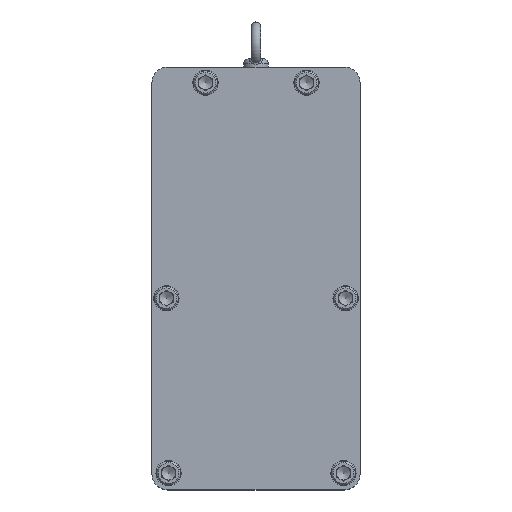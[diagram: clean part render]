
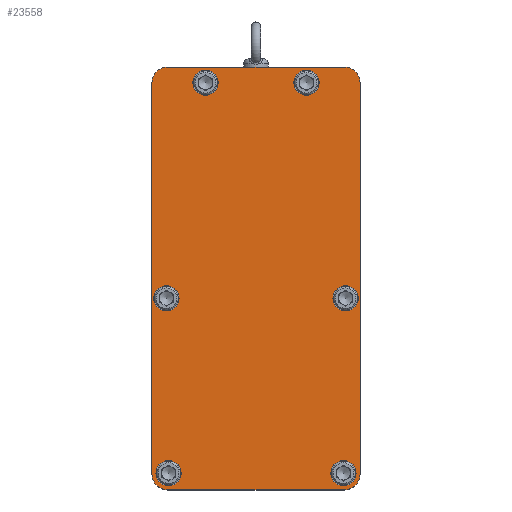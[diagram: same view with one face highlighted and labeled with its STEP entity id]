
A CAD part, top view. The second image highlights one B-rep face of the part: STEP entity #23558.
In plain terms, the highlighted planar face has unit normal (0, 0, 1).
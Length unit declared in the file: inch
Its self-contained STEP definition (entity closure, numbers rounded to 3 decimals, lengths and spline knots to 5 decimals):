
#200 = DIRECTION ( 'NONE',  ( 0., 0., 1. ) ) ;
#562 = CARTESIAN_POINT ( 'NONE',  ( -3.55, 3.46482, 12.0218 ) ) ;
#747 = CIRCLE ( 'NONE', #16104, 0.5 ) ;
#864 = DIRECTION ( 'NONE',  ( 0., -1., 0. ) ) ;
#934 = LINE ( 'NONE', #20527, #6614 ) ;
#1022 = CIRCLE ( 'NONE', #16890, 0.625 ) ;
#1526 = CIRCLE ( 'NONE', #22189, 0.625 ) ;
#1750 = CARTESIAN_POINT ( 'NONE',  ( -3.5, 12., 12.0218 ) ) ;
#1758 = EDGE_CURVE ( 'NONE', #25386, #25386, #19009, .T. ) ;
#1796 = AXIS2_PLACEMENT_3D ( 'NONE', #10828, #22110, #30065 ) ;
#1975 = VERTEX_POINT ( 'NONE', #13221 ) ;
#2240 = VERTEX_POINT ( 'NONE', #2275 ) ;
#2275 = CARTESIAN_POINT ( 'NONE',  ( -4.125, -3.5, 12.0218 ) ) ;
#2664 = CARTESIAN_POINT ( 'NONE',  ( 3.96482, -3.46482, 12.0218 ) ) ;
#2688 = DIRECTION ( 'NONE',  ( 1., 0., 0. ) ) ;
#3110 = CARTESIAN_POINT ( 'NONE',  ( 4.125, 12.625, 12.0218 ) ) ;
#3134 = ORIENTED_EDGE ( 'NONE', *, *, #6333, .F. ) ;
#3135 = AXIS2_PLACEMENT_3D ( 'NONE', #33905, #5983, #13933 ) ;
#3374 = CARTESIAN_POINT ( 'NONE',  ( 2.5, 12., 12.0218 ) ) ;
#3387 = DIRECTION ( 'NONE',  ( 0., 0., -1. ) ) ;
#3435 = DIRECTION ( 'NONE',  ( 1., 0., 0. ) ) ;
#3448 = ORIENTED_EDGE ( 'NONE', *, *, #28261, .F. ) ;
#3514 = DIRECTION ( 'NONE',  ( 1., 0., 0. ) ) ;
#3584 = DIRECTION ( 'NONE',  ( 0., 0., 1. ) ) ;
#3635 = LINE ( 'NONE', #20634, #5531 ) ;
#4850 = CARTESIAN_POINT ( 'NONE',  ( 3.5, 12.625, 12.0218 ) ) ;
#5077 = DIRECTION ( 'NONE',  ( 0., 0., 1. ) ) ;
#5180 = EDGE_CURVE ( 'NONE', #23943, #20504, #1526, .T. ) ;
#5344 = EDGE_LOOP ( 'NONE', ( #23296 ) ) ;
#5531 = VECTOR ( 'NONE', #13858, 39.37008 ) ;
#5752 = EDGE_CURVE ( 'NONE', #18131, #18131, #13948, .T. ) ;
#5983 = DIRECTION ( 'NONE',  ( 0., 0., 1. ) ) ;
#6258 = VERTEX_POINT ( 'NONE', #11200 ) ;
#6333 = EDGE_CURVE ( 'NONE', #28695, #28695, #31718, .T. ) ;
#6542 = EDGE_CURVE ( 'NONE', #30254, #11014, #1022, .T. ) ;
#6614 = VECTOR ( 'NONE', #9062, 39.37008 ) ;
#6703 = DIRECTION ( 'NONE',  ( -1., 0., 0. ) ) ;
#6976 = CARTESIAN_POINT ( 'NONE',  ( 3.5, 12., 12.0218 ) ) ;
#7756 = CARTESIAN_POINT ( 'NONE',  ( -3.5, 12.625, 12.0218 ) ) ;
#8063 = CARTESIAN_POINT ( 'NONE',  ( -3.05, 3.46482, 12.0218 ) ) ;
#8108 = AXIS2_PLACEMENT_3D ( 'NONE', #562, #200, #3514 ) ;
#8114 = ORIENTED_EDGE ( 'NONE', *, *, #1758, .F. ) ;
#8244 = VERTEX_POINT ( 'NONE', #21736 ) ;
#8789 = DIRECTION ( 'NONE',  ( 0., 0., 1. ) ) ;
#8865 = CARTESIAN_POINT ( 'NONE',  ( -3.5, -4.125, 12.0218 ) ) ;
#9062 = DIRECTION ( 'NONE',  ( 0., 1., 0. ) ) ;
#10828 = CARTESIAN_POINT ( 'NONE',  ( -3.5, -3.5, 12.0218 ) ) ;
#10871 = CIRCLE ( 'NONE', #19748, 0.625 ) ;
#11014 = VERTEX_POINT ( 'NONE', #25174 ) ;
#11084 = EDGE_LOOP ( 'NONE', ( #36185, #27517, #19720, #26619, #19499, #26011, #24263, #16277 ) ) ;
#11200 = CARTESIAN_POINT ( 'NONE',  ( 4.125, -3.5, 12.0218 ) ) ;
#11504 = FACE_BOUND ( 'NONE', #22911, .T. ) ;
#11602 = ORIENTED_EDGE ( 'NONE', *, *, #30815, .F. ) ;
#13131 = DIRECTION ( 'NONE',  ( -1., 0., 0. ) ) ;
#13221 = CARTESIAN_POINT ( 'NONE',  ( -1.5, 12., 12.0218 ) ) ;
#13266 = EDGE_LOOP ( 'NONE', ( #8114 ) ) ;
#13858 = DIRECTION ( 'NONE',  ( 1., 0., 0. ) ) ;
#13933 = DIRECTION ( 'NONE',  ( 1., 0., 0. ) ) ;
#13948 = CIRCLE ( 'NONE', #30513, 0.5 ) ;
#14642 = DIRECTION ( 'NONE',  ( -1., 0., 0. ) ) ;
#14932 = DIRECTION ( 'NONE',  ( -1., 0., 0. ) ) ;
#16104 = AXIS2_PLACEMENT_3D ( 'NONE', #33365, #5077, #2688 ) ;
#16277 = ORIENTED_EDGE ( 'NONE', *, *, #6542, .T. ) ;
#16890 = AXIS2_PLACEMENT_3D ( 'NONE', #1750, #18931, #27442 ) ;
#17422 = FACE_BOUND ( 'NONE', #17902, .T. ) ;
#17508 = LINE ( 'NONE', #3110, #34812 ) ;
#17588 = VERTEX_POINT ( 'NONE', #28218 ) ;
#17902 = EDGE_LOOP ( 'NONE', ( #32814 ) ) ;
#18062 = DIRECTION ( 'NONE',  ( 1., 0., 0. ) ) ;
#18131 = VERTEX_POINT ( 'NONE', #23854 ) ;
#18931 = DIRECTION ( 'NONE',  ( 0., 0., 1. ) ) ;
#19009 = CIRCLE ( 'NONE', #23133, 0.5 ) ;
#19073 = CIRCLE ( 'NONE', #3135, 0.5 ) ;
#19499 = ORIENTED_EDGE ( 'NONE', *, *, #24017, .F. ) ;
#19505 = EDGE_CURVE ( 'NONE', #30254, #20504, #3635, .T. ) ;
#19720 = ORIENTED_EDGE ( 'NONE', *, *, #25756, .F. ) ;
#19748 = AXIS2_PLACEMENT_3D ( 'NONE', #23176, #3584, #6703 ) ;
#20029 = FACE_OUTER_BOUND ( 'NONE', #11084, .T. ) ;
#20204 = FACE_BOUND ( 'NONE', #31235, .T. ) ;
#20377 = FACE_BOUND ( 'NONE', #34194, .T. ) ;
#20504 = VERTEX_POINT ( 'NONE', #4850 ) ;
#20527 = CARTESIAN_POINT ( 'NONE',  ( -4.125, 12.625, 12.0218 ) ) ;
#20634 = CARTESIAN_POINT ( 'NONE',  ( 4.125, 12.625, 12.0218 ) ) ;
#21197 = CARTESIAN_POINT ( 'NONE',  ( 3.46482, -3.46482, 12.0218 ) ) ;
#21273 = CARTESIAN_POINT ( 'NONE',  ( 4.125, -4.125, 12.0218 ) ) ;
#21533 = DIRECTION ( 'NONE',  ( 1., 0., 0. ) ) ;
#21736 = CARTESIAN_POINT ( 'NONE',  ( -2.96482, -3.46482, 12.0218 ) ) ;
#21787 = AXIS2_PLACEMENT_3D ( 'NONE', #31309, #3387, #14642 ) ;
#22110 = DIRECTION ( 'NONE',  ( 0., 0., 1. ) ) ;
#22189 = AXIS2_PLACEMENT_3D ( 'NONE', #6976, #26042, #14932 ) ;
#22911 = EDGE_LOOP ( 'NONE', ( #3134 ) ) ;
#23005 = VERTEX_POINT ( 'NONE', #8865 ) ;
#23133 = AXIS2_PLACEMENT_3D ( 'NONE', #21197, #34871, #18062 ) ;
#23176 = CARTESIAN_POINT ( 'NONE',  ( 3.5, -3.5, 12.0218 ) ) ;
#23296 = ORIENTED_EDGE ( 'NONE', *, *, #28131, .F. ) ;
#23558 = ADVANCED_FACE ( 'NONE', ( #25578, #20377, #11504, #20204, #31481, #17422, #20029 ), #28703, .F. ) ;
#23854 = CARTESIAN_POINT ( 'NONE',  ( 4.05, 3.46482, 12.0218 ) ) ;
#23943 = VERTEX_POINT ( 'NONE', #34826 ) ;
#24017 = EDGE_CURVE ( 'NONE', #23943, #6258, #17508, .T. ) ;
#24026 = CIRCLE ( 'NONE', #8108, 0.5 ) ;
#24263 = ORIENTED_EDGE ( 'NONE', *, *, #19505, .F. ) ;
#24308 = DIRECTION ( 'NONE',  ( 0., 0., 1. ) ) ;
#24363 = EDGE_CURVE ( 'NONE', #2240, #23005, #26571, .T. ) ;
#25073 = VERTEX_POINT ( 'NONE', #8063 ) ;
#25174 = CARTESIAN_POINT ( 'NONE',  ( -4.125, 12., 12.0218 ) ) ;
#25386 = VERTEX_POINT ( 'NONE', #2664 ) ;
#25578 = FACE_BOUND ( 'NONE', #5344, .T. ) ;
#25756 = EDGE_CURVE ( 'NONE', #17588, #23005, #27209, .T. ) ;
#26011 = ORIENTED_EDGE ( 'NONE', *, *, #5180, .T. ) ;
#26042 = DIRECTION ( 'NONE',  ( 0., 0., 1. ) ) ;
#26571 = CIRCLE ( 'NONE', #1796, 0.625 ) ;
#26619 = ORIENTED_EDGE ( 'NONE', *, *, #35105, .T. ) ;
#27209 = LINE ( 'NONE', #21273, #29585 ) ;
#27442 = DIRECTION ( 'NONE',  ( -1., 0., 0. ) ) ;
#27517 = ORIENTED_EDGE ( 'NONE', *, *, #24363, .T. ) ;
#27876 = EDGE_CURVE ( 'NONE', #2240, #11014, #934, .T. ) ;
#28131 = EDGE_CURVE ( 'NONE', #8244, #8244, #747, .T. ) ;
#28218 = CARTESIAN_POINT ( 'NONE',  ( 3.5, -4.125, 12.0218 ) ) ;
#28261 = EDGE_CURVE ( 'NONE', #1975, #1975, #19073, .T. ) ;
#28695 = VERTEX_POINT ( 'NONE', #3374 ) ;
#28703 = PLANE ( 'NONE',  #21787 ) ;
#29585 = VECTOR ( 'NONE', #13131, 39.37008 ) ;
#30065 = DIRECTION ( 'NONE',  ( -1., 0., 0. ) ) ;
#30254 = VERTEX_POINT ( 'NONE', #7756 ) ;
#30513 = AXIS2_PLACEMENT_3D ( 'NONE', #35210, #24308, #21533 ) ;
#30815 = EDGE_CURVE ( 'NONE', #25073, #25073, #24026, .T. ) ;
#31235 = EDGE_LOOP ( 'NONE', ( #11602 ) ) ;
#31309 = CARTESIAN_POINT ( 'NONE',  ( 0., 0., 12.0218 ) ) ;
#31481 = FACE_BOUND ( 'NONE', #13266, .T. ) ;
#31718 = CIRCLE ( 'NONE', #34064, 0.5 ) ;
#32814 = ORIENTED_EDGE ( 'NONE', *, *, #5752, .F. ) ;
#33365 = CARTESIAN_POINT ( 'NONE',  ( -3.46482, -3.46482, 12.0218 ) ) ;
#33905 = CARTESIAN_POINT ( 'NONE',  ( -2., 12., 12.0218 ) ) ;
#34064 = AXIS2_PLACEMENT_3D ( 'NONE', #36546, #8789, #3435 ) ;
#34194 = EDGE_LOOP ( 'NONE', ( #3448 ) ) ;
#34812 = VECTOR ( 'NONE', #864, 39.37008 ) ;
#34826 = CARTESIAN_POINT ( 'NONE',  ( 4.125, 12., 12.0218 ) ) ;
#34871 = DIRECTION ( 'NONE',  ( 0., 0., 1. ) ) ;
#35105 = EDGE_CURVE ( 'NONE', #17588, #6258, #10871, .T. ) ;
#35210 = CARTESIAN_POINT ( 'NONE',  ( 3.55, 3.46482, 12.0218 ) ) ;
#36185 = ORIENTED_EDGE ( 'NONE', *, *, #27876, .F. ) ;
#36546 = CARTESIAN_POINT ( 'NONE',  ( 2., 12., 12.0218 ) ) ;
